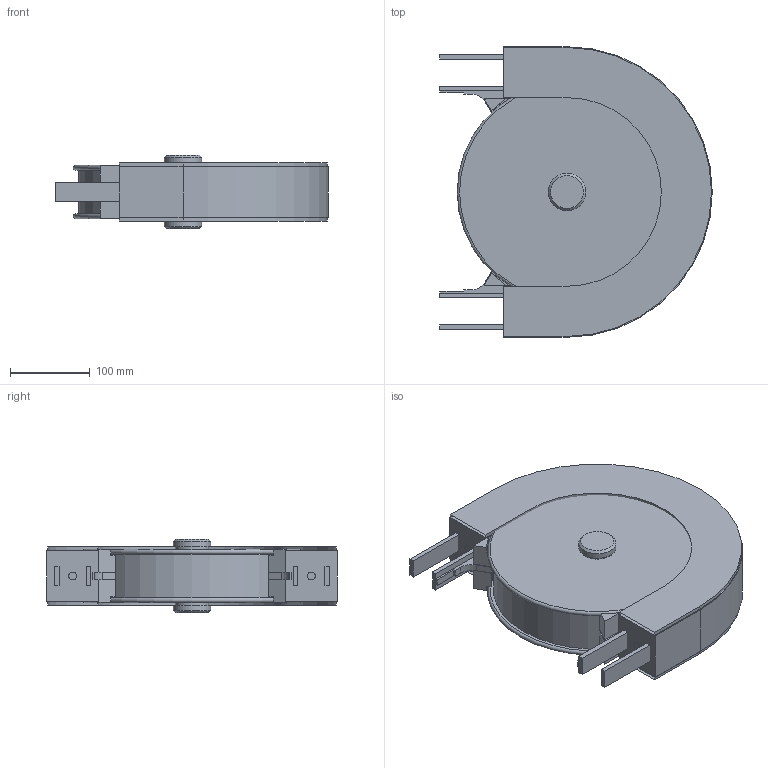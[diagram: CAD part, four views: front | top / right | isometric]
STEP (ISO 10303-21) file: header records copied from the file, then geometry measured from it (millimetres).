
FILE_DESCRIPTION(/* description */ ('Bogenrad 180°'),/* implementation_level */ '2;1');
FILE_NAME(/* name */ 'T:\vdz0\Step Daten Website\modulflex FL-System\Bogenräder\FLBH 180R150 A_43659.stp',/* time_stamp */ '2024-09-03T09:21:35+02:00',/* author */ ('lzb0'),/* organization */ ('modular automation GmbH'),/* preprocessor_version */ 'ST-DEVELOPER v18.1',/* originating_system */ 'Autodesk Inventor 2021',/* authorisation */ '');
FILE_SCHEMA (('AUTOMOTIVE_DESIGN { 1 0 10303 214 3 1 1 }'));
Length unit declared in the file: millimetre
Products named in the file (1): FLBH 180R150 A
Bounding box: 342.5 x 365 x 93 mm (x, y, z)
Volume: 6491277.3 mm3; surface area: 587998.1 mm2
Topology: 8 solids, 12 shells, 123 faces, 289 edges, 192 vertices
Faces by surface type: plane 104, cylinder 15, cone 2, torus 2
Full cylindrical faces by diameter (mm): 10 x2, 42 x2, 47 x2, 262 x1
Entity records: 3581 total; most frequent: CARTESIAN_POINT 612, DIRECTION 577, ORIENTED_EDGE 558, EDGE_CURVE 289, LINE 251, VECTOR 251, VERTEX_POINT 192, AXIS2_PLACEMENT_3D 163
